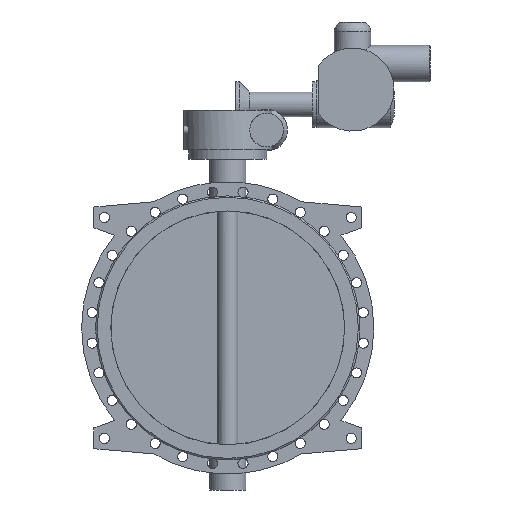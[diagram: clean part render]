
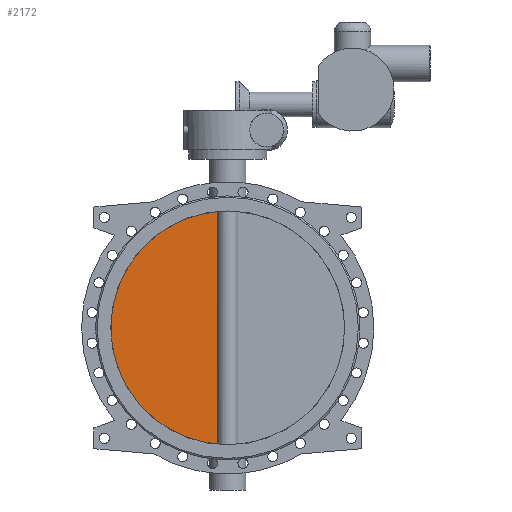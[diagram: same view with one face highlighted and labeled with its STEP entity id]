
A CAD part, front view. The second image highlights one B-rep face of the part: STEP entity #2172.
In plain terms, the highlighted planar face has unit normal (0, -1, 0).
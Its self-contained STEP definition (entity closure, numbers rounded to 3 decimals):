
#2172=ADVANCED_FACE('',(#4330),#4332,.T.);
#4330=FACE_BOUND('',#4331,.T.);
#4331=EDGE_LOOP('',(#5607,#5608));
#4332=PLANE('',#4333);
#4333=AXIS2_PLACEMENT_3D('',#4334,#4335,#4336);
#4334=CARTESIAN_POINT('',(0.,-10.,0.));
#4335=DIRECTION('',(0.,-1.,0.));
#4336=DIRECTION('',(1.,0.,0.));
#5607=ORIENTED_EDGE('',*,*,#6236,.T.);
#5608=ORIENTED_EDGE('',*,*,#6245,.T.);
#6236=EDGE_CURVE('',#7356,#7354,#7357,.F.);
#6245=EDGE_CURVE('',#7354,#7356,#7372,.F.);
#7354=VERTEX_POINT('',#16279);
#7356=VERTEX_POINT('',#16364);
#7357=CIRCLE('',#16365,450.);
#7372=LINE('',#16634,#16635);
#16279=CARTESIAN_POINT('',(-38.73,-10.,-448.33));
#16364=CARTESIAN_POINT('',(-38.73,-10.,448.33));
#16365=AXIS2_PLACEMENT_3D('',#16366,#16367,#16368);
#16366=CARTESIAN_POINT('',(0.,-10.,0.));
#16367=DIRECTION('',(0.,1.,0.));
#16368=DIRECTION('',(-0.086,0.,-0.996));
#16634=CARTESIAN_POINT('',(-38.73,-10.,448.33));
#16635=VECTOR('',#16636,1.);
#16636=DIRECTION('',(0.,0.,-1.));
